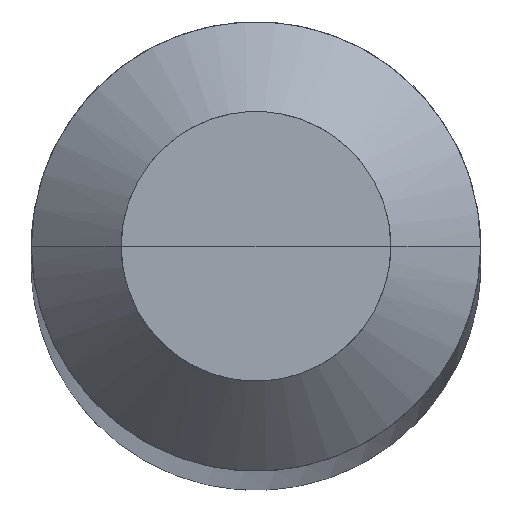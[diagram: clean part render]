
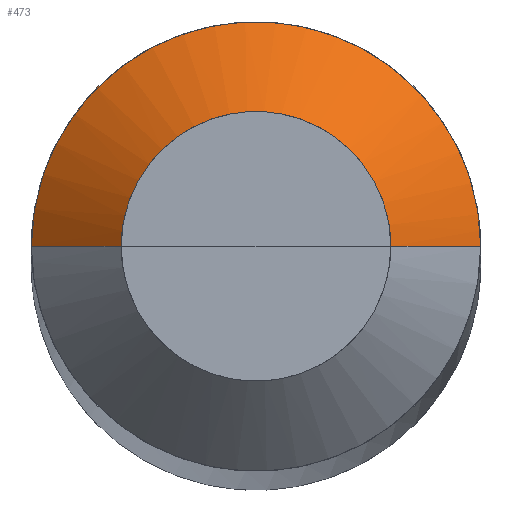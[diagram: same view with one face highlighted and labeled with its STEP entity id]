
A CAD part, top view. The second image highlights one B-rep face of the part: STEP entity #473.
In plain terms, the highlighted free-form (B-spline) face has degree [1, 2] with [2, 5] control points.
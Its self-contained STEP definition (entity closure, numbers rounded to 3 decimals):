
#286=CARTESIAN_POINT('',(1.0,0.0,48.55));
#287=CARTESIAN_POINT('',(1.0,1.0,48.55));
#288=CARTESIAN_POINT('',(0.0,1.0,48.55));
#289=CARTESIAN_POINT('',(-1.0,1.0,48.55));
#290=CARTESIAN_POINT('',(-1.0,0.0,48.55));
#291=CARTESIAN_POINT('',(0.6,0.0,48.95));
#292=CARTESIAN_POINT('',(0.6,0.6,48.95));
#293=CARTESIAN_POINT('',(0.0,0.6,48.95));
#294=CARTESIAN_POINT('',(-0.6,0.6,48.95));
#295=CARTESIAN_POINT('',(-0.6,0.0,48.95));
#454=(
BOUNDED_SURFACE()
B_SPLINE_SURFACE(1,2,(
(#286,#287,#288,#289,#290),
(#291,#292,#293,#294,#295)
), .UNSPECIFIED.,.F.,.F.,.F.)
B_SPLINE_SURFACE_WITH_KNOTS((2,2),(3,2,3),(
0.0,1.0),(
0.0,0.5,1.0), .UNSPECIFIED.)
GEOMETRIC_REPRESENTATION_ITEM()
RATIONAL_B_SPLINE_SURFACE(((1.0,0.707,1.0,0.707,1.0),
(1.0,0.707,1.0,0.707,1.0)
))
REPRESENTATION_ITEM('')
SURFACE()
);
#455=(
BOUNDED_CURVE()
B_SPLINE_CURVE(2,(#290,#289,#288,#287,#286),.UNSPECIFIED.,.F.,.F.)
B_SPLINE_CURVE_WITH_KNOTS((3,2,3),
(0.0,0.5,1.0),.UNSPECIFIED.)
CURVE()
GEOMETRIC_REPRESENTATION_ITEM()
RATIONAL_B_SPLINE_CURVE((1.0,0.707,1.0,0.707,1.0))
REPRESENTATION_ITEM('')
);
#456=(
BOUNDED_CURVE()
B_SPLINE_CURVE(1,(#286,#291),.UNSPECIFIED.,.F.,.F.)
B_SPLINE_CURVE_WITH_KNOTS((2,2),
(0.0,1.0),.UNSPECIFIED.)
CURVE()
GEOMETRIC_REPRESENTATION_ITEM()
RATIONAL_B_SPLINE_CURVE((1.0,1.0))
REPRESENTATION_ITEM('')
);
#457=(
BOUNDED_CURVE()
B_SPLINE_CURVE(2,(#291,#292,#293,#294,#295),.UNSPECIFIED.,.F.,.F.)
B_SPLINE_CURVE_WITH_KNOTS((3,2,3),
(0.0,0.5,1.0),.UNSPECIFIED.)
CURVE()
GEOMETRIC_REPRESENTATION_ITEM()
RATIONAL_B_SPLINE_CURVE((1.0,0.707,1.0,0.707,1.0))
REPRESENTATION_ITEM('')
);
#458=(
BOUNDED_CURVE()
B_SPLINE_CURVE(1,(#295,#290),.UNSPECIFIED.,.F.,.F.)
B_SPLINE_CURVE_WITH_KNOTS((2,2),
(0.0,1.0),.UNSPECIFIED.)
CURVE()
GEOMETRIC_REPRESENTATION_ITEM()
RATIONAL_B_SPLINE_CURVE((1.0,1.0))
REPRESENTATION_ITEM('')
);
#459=VERTEX_POINT('',#286);
#460=VERTEX_POINT('',#290);
#461=VERTEX_POINT('',#291);
#462=VERTEX_POINT('',#295);
#463=EDGE_CURVE('',#460,#459,#455,.T.);
#464=EDGE_CURVE('',#459,#461,#456,.T.);
#465=EDGE_CURVE('',#461,#462,#457,.T.);
#466=EDGE_CURVE('',#462,#460,#458,.T.);
#467=ORIENTED_EDGE('',*,*,#463,.T.);
#468=ORIENTED_EDGE('',*,*,#464,.T.);
#469=ORIENTED_EDGE('',*,*,#465,.T.);
#470=ORIENTED_EDGE('',*,*,#466,.T.);
#471=EDGE_LOOP('',(#467,#468,#469,#470));
#472=FACE_OUTER_BOUND('',#471,.T.);
#473=ADVANCED_FACE('',(#472),#454,.T.);
